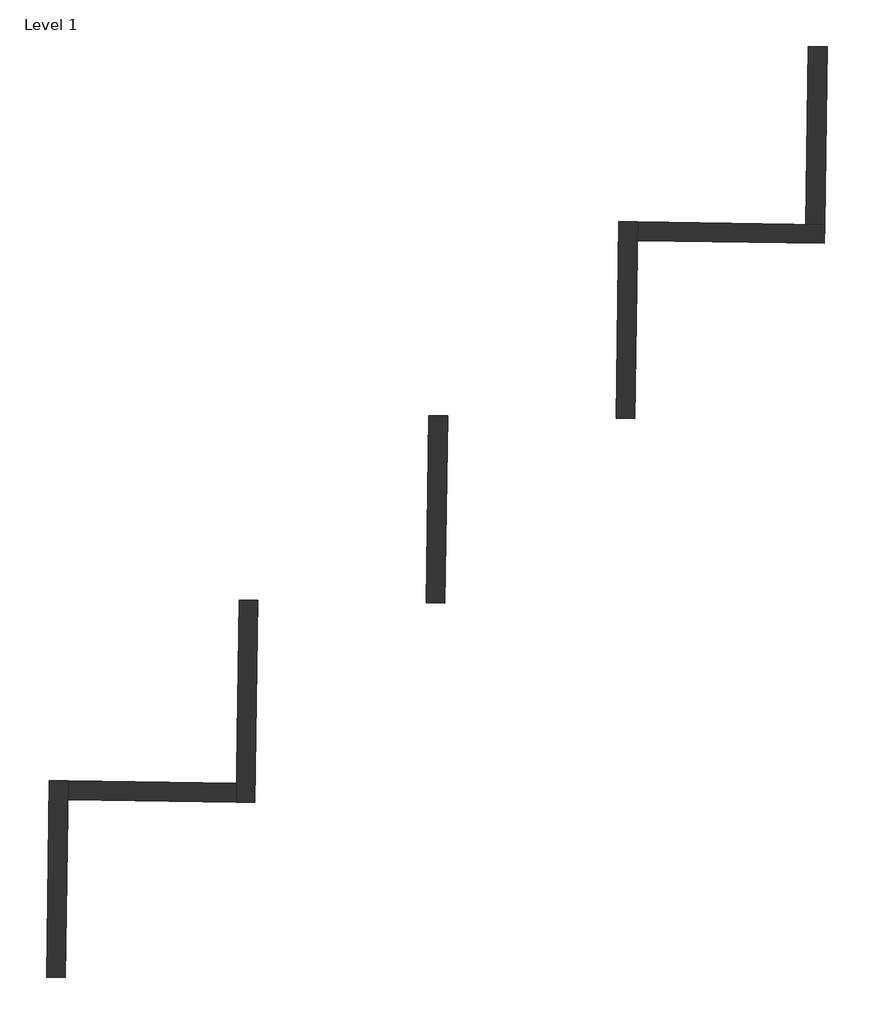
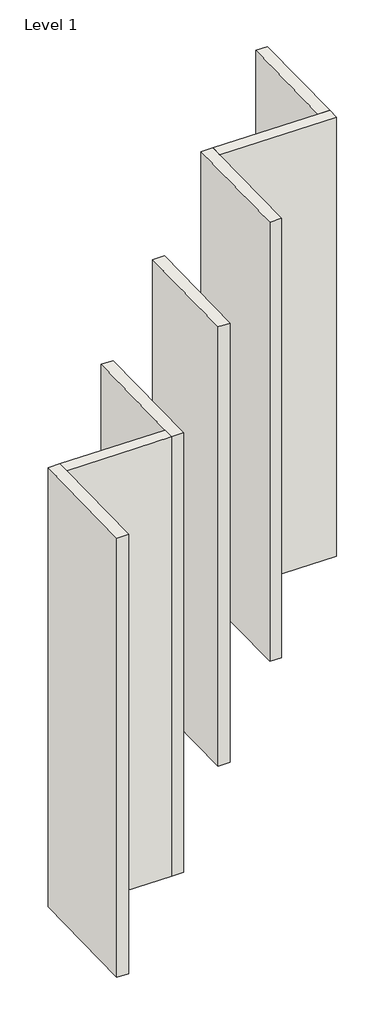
# One storey: 7 walls.
"""IFC4 building model written with IfcOpenShell, lengths in millimetres."""

from ifc_helpers import new_model, si_unit, origin, origin_with_axes, place, context, project, spatial, polyline, outline, extrude, faceted_brep, element, save

model = new_model("IFC4")

# Units and contexts
model_context = context("Model", 3, world=origin())
ifc_project = project(units=[si_unit("LENGTHUNIT", "METRE", prefix="MILLI")], contexts=[model_context])

# Site, building, storey
site = spatial("IfcSite", under=ifc_project)
building = spatial("IfcBuilding", under=site)
storey = spatial("IfcBuildingStorey", under=building, Name="Level 1", Elevation=0.0)

# Walls
placement = place(None, origin())
element("IfcWall", 1, ObjectType="Generic - 200mm", at=placement, inside=storey, context=model_context, shape_type="Brep", body=[
    faceted_brep([(7923.2094425, -17470.1216458, 0.0), (7953.655144, -15313.0702148, 0.0), (7953.655144, -15313.0702148, 8000.0), (7923.2094425, -17470.1216458, 8000.0), (7723.2293614, -17467.299027, 0.0), (7723.2293614, -17467.299027, 8000.0), (7726.0519802, -17267.3189459, 8000.0), (7753.6750629, -15310.247596, 8000.0), (7753.6750629, -15310.247596, 0.0), (7726.0519802, -17267.3189459, 0.0)], [[[0, 1, 2, 3]], [[4, 5, 6, 7, 8, 9]], [[1, 0, 4, 9, 8]], [[2, 1, 8, 7]], [[3, 2, 7, 6, 5]], [[0, 3, 5, 4]]]),
])
element("IfcWall", 2, ObjectType="Generic - 200mm", at=placement, inside=storey, context=model_context, shape_type="SweptSolid", body=[
    extrude(outline(polyline([(9981.6821423, -13341.4955918), (9953.4559546, -15341.2964025), (9753.4758736, -15338.4737837), (9781.7020613, -13338.672973), (9981.6821423, -13341.4955918)])), origin_with_axes(), (0.0, 0.0, 1.0), 8000.0),
])
element("IfcWall", 3, ObjectType="Generic - 200mm", at=placement, inside=storey, context=model_context, shape_type="Brep", body=[
    faceted_brep([(11981.482953, -13369.7217795, 0.0), (12008.2978313, -11469.9110094, 0.0), (12011.1204501, -11269.9309283, 0.0), (12011.1204501, -11269.9309283, 8000.0), (12008.2978313, -11469.9110094, 8000.0), (11981.482953, -13369.7217795, 8000.0), (11781.5028719, -13366.8991607, 0.0), (11781.5028719, -13366.8991607, 8000.0), (11811.140369, -11267.1083095, 8000.0), (11811.140369, -11267.1083095, 0.0)], [[[0, 1, 2, 3, 4, 5]], [[6, 7, 8, 9]], [[2, 1, 0, 6, 9]], [[5, 4, 3, 8, 7]], [[0, 5, 7, 6]], [[3, 2, 9, 8]]]),
])
element("IfcWall", 4, ObjectType="Generic - 200mm", at=placement, inside=storey, context=model_context, shape_type="Brep", body=[
    faceted_brep([(12008.2978313, -11469.9110094, 0.0), (14008.098642, -11498.137197, 0.0), (14008.098642, -11498.137197, 8000.0), (12008.2978313, -11469.9110094, 8000.0), (12011.1204501, -11269.9309283, 0.0), (12011.1204501, -11269.9309283, 8000.0), (13810.9411797, -11295.3344972, 8000.0), (14010.9212607, -11298.157116, 8000.0), (14010.9212607, -11298.157116, 0.0), (13810.9411797, -11295.3344972, 0.0)], [[[0, 1, 2, 3]], [[4, 5, 6, 7, 8, 9]], [[1, 0, 4, 9, 8]], [[3, 2, 7, 6, 5]], [[0, 3, 5, 4]], [[2, 1, 8, 7]]]),
])
element("IfcWall", 5, ObjectType="Generic - 200mm", at=placement, inside=storey, context=model_context, shape_type="SweptSolid", body=[
    extrude(outline(polyline([(14037.736139, -9398.3463459), (14010.9212607, -11298.157116), (13810.9411797, -11295.3344972), (13837.756058, -9395.5237271), (14037.736139, -9398.3463459)])), origin_with_axes(), (0.0, 0.0, 1.0), 8000.0),
])
element("IfcWall", 6, ObjectType="Generic - 200mm", at=placement, inside=storey, context=model_context, shape_type="Brep", body=[
    faceted_brep([(5896.5937535, -19341.7062282, 0.0), (5923.4086318, -17441.8954581, 0.0), (5926.2312506, -17241.915377, 0.0), (5926.2312506, -17241.915377, 8000.0), (5923.4086318, -17441.8954581, 8000.0), (5896.5937535, -19341.7062282, 8000.0), (5696.6136725, -19338.8836095, 0.0), (5696.6136725, -19338.8836095, 8000.0), (5726.2511695, -17239.0927583, 8000.0), (5726.2511695, -17239.0927583, 0.0)], [[[0, 1, 2, 3, 4, 5]], [[6, 7, 8, 9]], [[2, 1, 0, 6, 9]], [[5, 4, 3, 8, 7]], [[0, 5, 7, 6]], [[3, 2, 9, 8]]]),
])
element("IfcWall", 7, ObjectType="Generic - 200mm", at=placement, inside=storey, context=model_context, shape_type="SweptSolid", body=[
    extrude(outline(polyline([(7723.2293614, -17467.299027), (5923.4086318, -17441.8954581), (5926.2312506, -17241.915377), (7726.0519802, -17267.3189459), (7723.2293614, -17467.299027)])), origin_with_axes(), (0.0, 0.0, 1.0), 8000.0),
])

save(model, "model.ifc")
